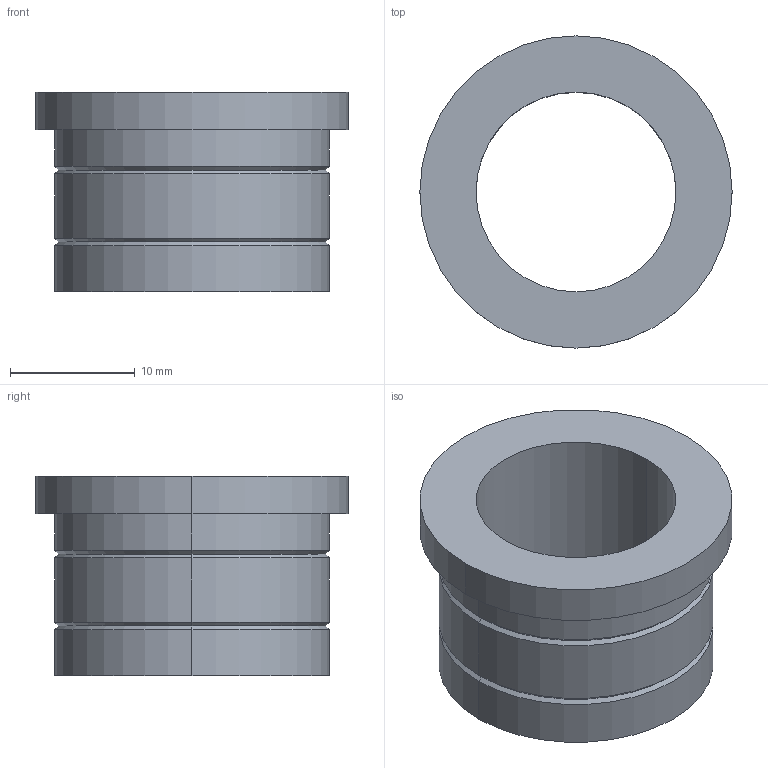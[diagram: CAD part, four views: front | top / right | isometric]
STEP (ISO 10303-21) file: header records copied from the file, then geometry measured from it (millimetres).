
FILE_DESCRIPTION(/* description */ (''),/* implementation_level */ '2;1');
FILE_NAME(/* name */ '3d_sgbt16-16_00016_r00.stp',/* time_stamp */ '2011-01-10T14:11:12+09:00',/* author */ ('MISUMI'),/* organization */ (''),/* preprocessor_version */ 'ST-DEVELOPER v11',/* originating_system */ 'UGS - NX 5.0',/* authorisation */ '');
FILE_SCHEMA (('CONFIG_CONTROL_DESIGN'));
Length unit declared in the file: millimetre
Products named in the file (1): 3d_sgbt16-16_00016_r00
Bounding box: 25 x 25 x 16 mm (x, y, z)
Volume: 3185 mm3; surface area: 2550.7 mm2
Topology: 1 solids, 1 shells, 21 faces, 42 edges, 24 vertices
Faces by surface type: cylinder 10, cone 8, plane 3
Entity records: 634 total; most frequent: DIRECTION 110, CARTESIAN_POINT 88, ORIENTED_EDGE 84, AXIS2_PLACEMENT_3D 46, EDGE_CURVE 42, EDGE_LOOP 24, VERTEX_POINT 24, CIRCLE 24
